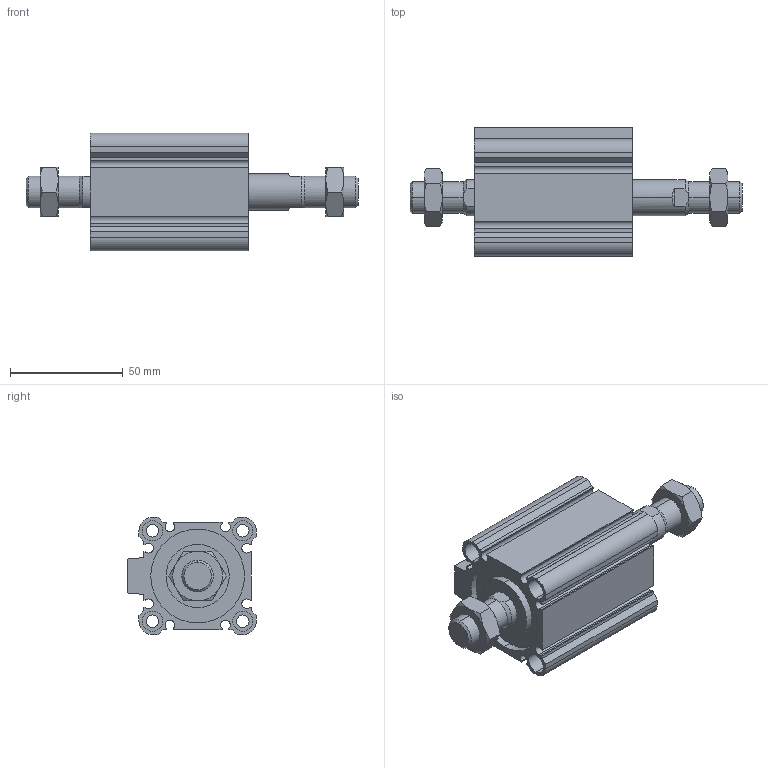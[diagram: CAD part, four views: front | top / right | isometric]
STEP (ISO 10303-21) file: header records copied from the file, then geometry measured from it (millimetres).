
FILE_DESCRIPTION (( 'STEP AP203' ), '1' );
FILE_NAME ('CCMB40-20M-P.STEP', '2020-08-10T11:38:08', ( '' ), ( '' ), 'SwSTEP 2.0', 'SolidWorks 2019', '' );
FILE_SCHEMA (( 'CONFIG_CONTROL_DESIGN' ));
Length unit declared in the file: millimetre
Products named in the file (1): CCMB40-20M-P
Bounding box: 147 x 57 x 52 mm (x, y, z)
Volume: 148640.9 mm3; surface area: 55280.3 mm2
Topology: 4 solids, 4 shells, 216 faces, 522 edges, 332 vertices
Faces by surface type: plane 94, cylinder 78, cone 44
Entity records: 7009 total; most frequent: CARTESIAN_POINT 1819, DIRECTION 1088, ORIENTED_EDGE 1044, EDGE_CURVE 522, AXIS2_PLACEMENT_3D 413, VERTEX_POINT 332, LINE 262, VECTOR 262
